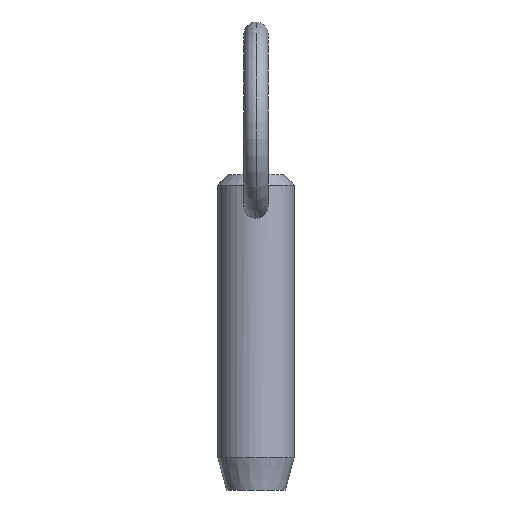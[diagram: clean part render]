
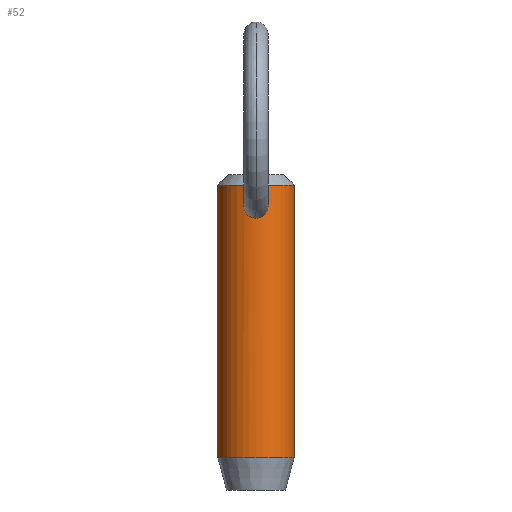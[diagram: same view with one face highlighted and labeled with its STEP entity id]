
A CAD part, front view. The second image highlights one B-rep face of the part: STEP entity #52.
In plain terms, the highlighted cylindrical face has radius 4.76 mm (diameter 9.52 mm), a partial arc.
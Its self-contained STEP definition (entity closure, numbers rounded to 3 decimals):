
#5 = ORIENTED_EDGE ( 'NONE', *, *, #321, .T. ) ;
#6 = VERTEX_POINT ( 'NONE', #254 ) ;
#15 = CARTESIAN_POINT ( 'NONE',  ( 0., -4.76, 24.548 ) ) ;
#18 = VERTEX_POINT ( 'NONE', #370 ) ;
#19 = CARTESIAN_POINT ( 'NONE',  ( 0.409, -4.743, 24.478 ) ) ;
#21 = DIRECTION ( 'NONE',  ( 0., 0., 1. ) ) ;
#23 = DIRECTION ( 'NONE',  ( 1., 0., 0. ) ) ;
#24 = CARTESIAN_POINT ( 'NONE',  ( 0., -4.76, 21.226 ) ) ;
#31 = CARTESIAN_POINT ( 'NONE',  ( 1.344, -4.567, 22.039 ) ) ;
#49 = DIRECTION ( 'NONE',  ( -1., 0., 0. ) ) ;
#52 = ADVANCED_FACE ( 'NONE', ( #103, #119 ), #508, .T. ) ;
#54 = CARTESIAN_POINT ( 'NONE',  ( 0., -4.76, 24.548 ) ) ;
#59 = CARTESIAN_POINT ( 'NONE',  ( 0.506, -4.734, 24.437 ) ) ;
#71 = CARTESIAN_POINT ( 'NONE',  ( 1.503, -4.517, 22.74 ) ) ;
#75 = CIRCLE ( 'NONE', #99, 4.76 ) ;
#82 = EDGE_CURVE ( 'NONE', #228, #18, #341, .T. ) ;
#88 = ORIENTED_EDGE ( 'NONE', *, *, #82, .F. ) ;
#94 = CARTESIAN_POINT ( 'NONE',  ( 0.209, -4.756, 24.534 ) ) ;
#95 = CARTESIAN_POINT ( 'NONE',  ( 0., 0., -8.7 ) ) ;
#99 = AXIS2_PLACEMENT_3D ( 'NONE', #95, #21, #182 ) ;
#100 = CARTESIAN_POINT ( 'NONE',  ( -0.504, -4.734, 24.438 ) ) ;
#103 = FACE_OUTER_BOUND ( 'NONE', #431, .T. ) ;
#110 = CARTESIAN_POINT ( 'NONE',  ( -4.76, 0., 20.3 ) ) ;
#112 = CARTESIAN_POINT ( 'NONE',  ( 1.178, -4.613, 21.776 ) ) ;
#118 = LINE ( 'NONE', #110, #292 ) ;
#119 = FACE_BOUND ( 'NONE', #173, .T. ) ;
#129 = DIRECTION ( 'NONE',  ( 0., 0., -1. ) ) ;
#133 = CARTESIAN_POINT ( 'NONE',  ( -1.19, -4.611, 23.824 ) ) ;
#136 = CARTESIAN_POINT ( 'NONE',  ( -0.21, -4.76, 21.226 ) ) ;
#143 = CARTESIAN_POINT ( 'NONE',  ( 0., -4.76, 21.226 ) ) ;
#145 = VERTEX_POINT ( 'NONE', #307 ) ;
#146 = CARTESIAN_POINT ( 'NONE',  ( -1.292, -4.582, 23.645 ) ) ;
#148 = CARTESIAN_POINT ( 'NONE',  ( 1.434, -4.539, 23.254 ) ) ;
#151 = CARTESIAN_POINT ( 'NONE',  ( 0.797, -4.697, 21.429 ) ) ;
#152 = CARTESIAN_POINT ( 'NONE',  ( 0.997, -4.655, 24.064 ) ) ;
#167 = CARTESIAN_POINT ( 'NONE',  ( 4.76, 0., 20.3 ) ) ;
#173 = EDGE_LOOP ( 'NONE', ( #457, #278 ) ) ;
#174 = CARTESIAN_POINT ( 'NONE',  ( 0.208, -4.757, 21.236 ) ) ;
#182 = DIRECTION ( 'NONE',  ( -1., 0., 0. ) ) ;
#184 = CARTESIAN_POINT ( 'NONE',  ( -0.793, -4.694, 21.439 ) ) ;
#185 = CARTESIAN_POINT ( 'NONE',  ( 0.687, -4.711, 24.335 ) ) ;
#188 = CARTESIAN_POINT ( 'NONE',  ( 4.76, 0., 25.35 ) ) ;
#190 = CARTESIAN_POINT ( 'NONE',  ( -0.703, -4.709, 21.389 ) ) ;
#192 = CARTESIAN_POINT ( 'NONE',  ( -0.932, -4.67, 24.145 ) ) ;
#193 = CARTESIAN_POINT ( 'NONE',  ( 1.385, -4.554, 22.132 ) ) ;
#197 = CARTESIAN_POINT ( 'NONE',  ( 1.24, -4.596, 21.86 ) ) ;
#202 = CARTESIAN_POINT ( 'NONE',  ( 1.492, -4.52, 22.948 ) ) ;
#207 = EDGE_CURVE ( 'NONE', #228, #145, #507, .T. ) ;
#216 = VERTEX_POINT ( 'NONE', #396 ) ;
#217 = CARTESIAN_POINT ( 'NONE',  ( 0., 0., 20.3 ) ) ;
#224 = CARTESIAN_POINT ( 'NONE',  ( -0.103, -4.76, 24.548 ) ) ;
#225 = DIRECTION ( 'NONE',  ( 0., 0., -1. ) ) ;
#228 = VERTEX_POINT ( 'NONE', #188 ) ;
#232 = DIRECTION ( 'NONE',  ( 0., 0., -1. ) ) ;
#238 = CARTESIAN_POINT ( 'NONE',  ( 1.404, -4.548, 23.353 ) ) ;
#245 = VERTEX_POINT ( 'NONE', #143 ) ;
#254 = CARTESIAN_POINT ( 'NONE',  ( 0., -4.76, 24.548 ) ) ;
#256 = CARTESIAN_POINT ( 'NONE',  ( 0., -4.76, 21.226 ) ) ;
#258 = CARTESIAN_POINT ( 'NONE',  ( -0.208, -4.757, 24.534 ) ) ;
#263 = VECTOR ( 'NONE', #502, 1000. ) ;
#264 = CARTESIAN_POINT ( 'NONE',  ( 0.104, -4.76, 24.548 ) ) ;
#265 = CARTESIAN_POINT ( 'NONE',  ( -1.441, -4.537, 23.257 ) ) ;
#278 = ORIENTED_EDGE ( 'NONE', *, *, #343, .T. ) ;
#287 = EDGE_CURVE ( 'NONE', #6, #245, #409, .T. ) ;
#292 = VECTOR ( 'NONE', #232, 1000. ) ;
#300 = CARTESIAN_POINT ( 'NONE',  ( 0., 0., 25.35 ) ) ;
#302 = CARTESIAN_POINT ( 'NONE',  ( -1.039, -4.646, 21.626 ) ) ;
#307 = CARTESIAN_POINT ( 'NONE',  ( -4.76, 0., 25.35 ) ) ;
#308 = CARTESIAN_POINT ( 'NONE',  ( -1.247, -4.596, 21.852 ) ) ;
#309 = AXIS2_PLACEMENT_3D ( 'NONE', #300, #225, #23 ) ;
#313 = CARTESIAN_POINT ( 'NONE',  ( 1.478, -4.525, 23.052 ) ) ;
#321 = EDGE_CURVE ( 'NONE', #216, #18, #75, .T. ) ;
#334 = CARTESIAN_POINT ( 'NONE',  ( 0.105, -4.76, 21.226 ) ) ;
#337 = ORIENTED_EDGE ( 'NONE', *, *, #207, .T. ) ;
#341 = LINE ( 'NONE', #167, #263 ) ;
#343 = EDGE_CURVE ( 'NONE', #245, #6, #435, .T. ) ;
#351 = CARTESIAN_POINT ( 'NONE',  ( -1.483, -4.524, 22.426 ) ) ;
#363 = CARTESIAN_POINT ( 'NONE',  ( 1.293, -4.582, 23.642 ) ) ;
#370 = CARTESIAN_POINT ( 'NONE',  ( 4.76, 0., -8.7 ) ) ;
#371 = AXIS2_PLACEMENT_3D ( 'NONE', #217, #129, #49 ) ;
#396 = CARTESIAN_POINT ( 'NONE',  ( -4.76, 0., -8.7 ) ) ;
#397 = CARTESIAN_POINT ( 'NONE',  ( -0.416, -4.746, 21.267 ) ) ;
#403 = CARTESIAN_POINT ( 'NONE',  ( 1.45, -4.534, 22.328 ) ) ;
#405 = CARTESIAN_POINT ( 'NONE',  ( 0.97, -4.662, 21.55 ) ) ;
#408 = EDGE_CURVE ( 'NONE', #145, #216, #118, .T. ) ;
#409 = B_SPLINE_CURVE_WITH_KNOTS ( 'NONE', 3,
 ( #54, #264, #94, #19, #59, #185, #469, #442, #152, #445, #363, #238, #148, #313, #202, #71, #436, #439, #403, #193, #31, #197, #112, #405, #151, #444, #503, #174, #334, #256 ),
 .UNSPECIFIED., .F., .F.,
 ( 4, 2, 2, 2, 2, 2, 2, 2, 2, 2, 2, 2, 2, 2, 4 ),
 ( 0.004, 0.005, 0.005, 0.005, 0.006, 0.006, 0.007, 0.007, 0.007, 0.007, 0.008, 0.008, 0.009, 0.009, 0.009 ),
 .UNSPECIFIED. ) ;
#423 = CARTESIAN_POINT ( 'NONE',  ( -0.409, -4.743, 24.478 ) ) ;
#431 = EDGE_LOOP ( 'NONE', ( #88, #337, #468, #5 ) ) ;
#435 = B_SPLINE_CURVE_WITH_KNOTS ( 'NONE', 3,
 ( #24, #136, #397, #190, #184, #512, #302, #308, #470, #351, #467, #466, #265, #146, #133, #192, #473, #100, #423, #258, #224, #15 ),
 .UNSPECIFIED., .F., .F.,
 ( 4, 2, 2, 2, 2, 2, 2, 2, 2, 2, 4 ),
 ( 0.009, 0.01, 0.01, 0.011, 0.011, 0.012, 0.012, 0.013, 0.014, 0.014, 0.014 ),
 .UNSPECIFIED. ) ;
#436 = CARTESIAN_POINT ( 'NONE',  ( 1.499, -4.518, 22.637 ) ) ;
#439 = CARTESIAN_POINT ( 'NONE',  ( 1.473, -4.526, 22.431 ) ) ;
#442 = CARTESIAN_POINT ( 'NONE',  ( 0.925, -4.67, 24.139 ) ) ;
#444 = CARTESIAN_POINT ( 'NONE',  ( 0.512, -4.733, 21.308 ) ) ;
#445 = CARTESIAN_POINT ( 'NONE',  ( 1.19, -4.611, 23.824 ) ) ;
#457 = ORIENTED_EDGE ( 'NONE', *, *, #287, .T. ) ;
#466 = CARTESIAN_POINT ( 'NONE',  ( -1.487, -4.522, 23.053 ) ) ;
#467 = CARTESIAN_POINT ( 'NONE',  ( -1.508, -4.515, 22.637 ) ) ;
#468 = ORIENTED_EDGE ( 'NONE', *, *, #408, .T. ) ;
#469 = CARTESIAN_POINT ( 'NONE',  ( 0.77, -4.698, 24.275 ) ) ;
#470 = CARTESIAN_POINT ( 'NONE',  ( -1.353, -4.564, 22.035 ) ) ;
#473 = CARTESIAN_POINT ( 'NONE',  ( -0.777, -4.7, 24.285 ) ) ;
#502 = DIRECTION ( 'NONE',  ( 0., 0., -1. ) ) ;
#503 = CARTESIAN_POINT ( 'NONE',  ( 0.411, -4.743, 21.277 ) ) ;
#507 = CIRCLE ( 'NONE', #309, 4.76 ) ;
#508 = CYLINDRICAL_SURFACE ( 'NONE', #371, 4.76 ) ;
#512 = CARTESIAN_POINT ( 'NONE',  ( -0.961, -4.663, 21.557 ) ) ;
